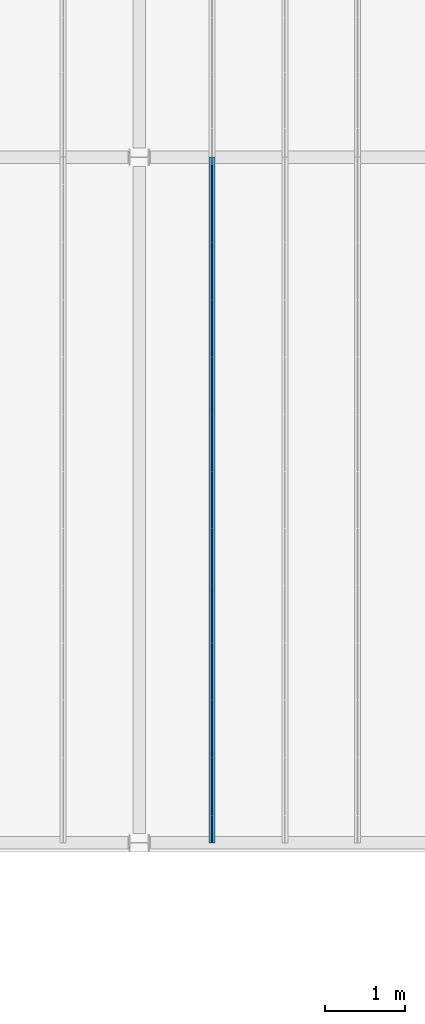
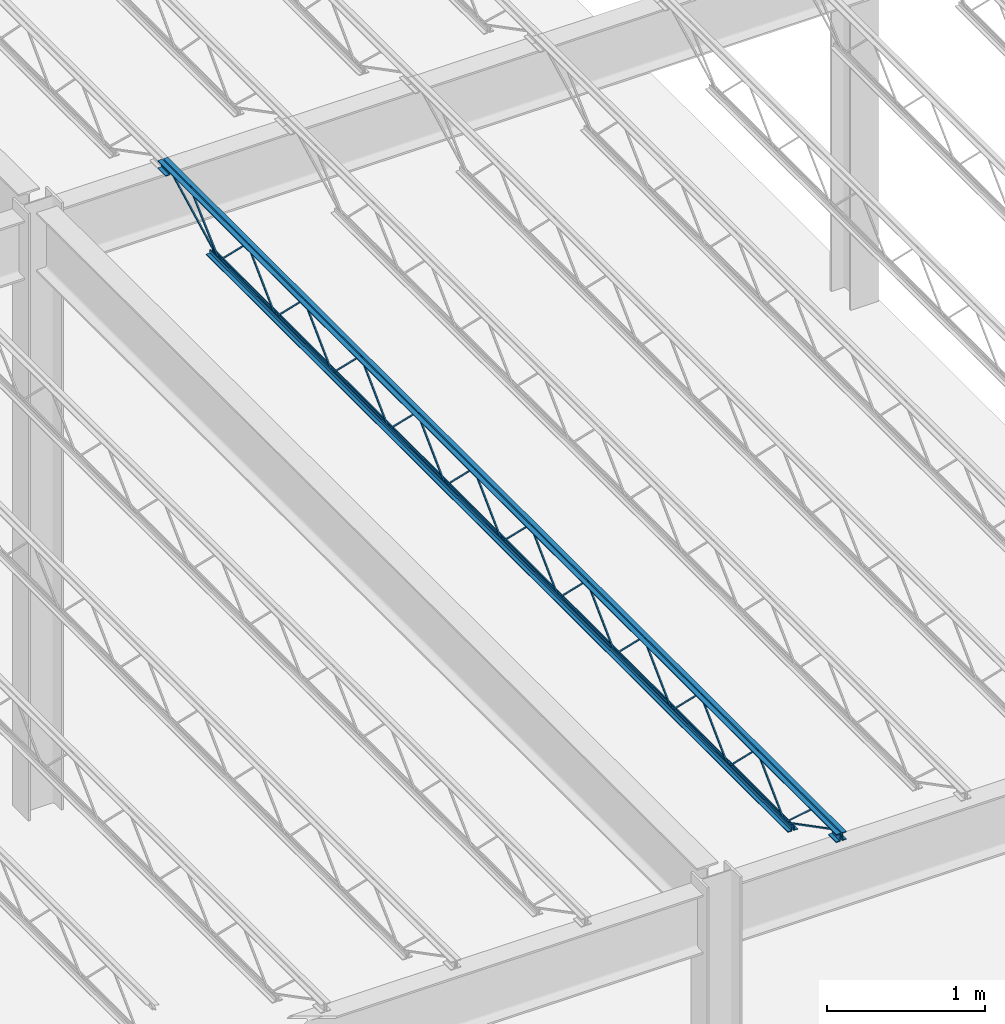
# One storey, part 64 of 119: 1 beam.
"""IFC2X3 building model written with IfcOpenShell, lengths in metres."""

from ifc_helpers import new_model, entity, si_unit, converted_unit, frame, origin, place, context, project, spatial, face_set, surface_model, element, save


model = new_model("IFC2X3")

# Units and contexts
model_context = context("Model", 3, precision=1e-09, world=origin())
plan_context = context("Plan", 3, precision=1e-09, world=origin())
ifc_project = project(units=[si_unit("LENGTHUNIT", "METRE"), si_unit("AREAUNIT", "SQUARE_METRE"), si_unit("VOLUMEUNIT", "CUBIC_METRE"), converted_unit("PLANEANGLEUNIT", "DEGREE", entity("IfcRatioMeasure", 0.01745329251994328), si_unit("PLANEANGLEUNIT", "RADIAN"), dimensions=[0, 0, 0, 0, 0, 0, 0]), si_unit("TIMEUNIT", "SECOND")], contexts=[model_context, plan_context])

# Site, building, storey
site_placement = place(None, origin())
site = spatial("IfcSite", under=ifc_project, at=site_placement, Name="Default", CompositionType="ELEMENT")
building_placement = place(site_placement, origin())
building = spatial("IfcBuilding", under=site, at=building_placement, CompositionType="ELEMENT")
storey_placement = place(building_placement, frame((0.0, 0.0, 4.570000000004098)))
storey = spatial("IfcBuildingStorey", under=building, at=storey_placement, Name="Second Floor", CompositionType="ELEMENT", Elevation=4.570000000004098)

# Beam
beam_placement = place(storey_placement, frame((-6.406750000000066, 10.03999999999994, 4.323999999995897)))
element("IfcBeam", 1, at=beam_placement, inside=storey, Name="M_K-Series Bar Joist-Rod Web:14K1:14K1", ObjectType="M_K-Series Bar Joist-Rod Web:14K1", context=model_context, shape_type="SurfaceModel", body=[
    surface_model("IfcFaceBasedSurfaceModel", [(0.04150000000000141, 6.428799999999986, 0.01110000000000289), (0.03200000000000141, 6.428799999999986, 0.01110000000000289), (0.03200000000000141, 6.428799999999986, 0.001600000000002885), (0.04150000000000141, 6.428799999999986, 0.001600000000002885), (0.0320000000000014, 6.430038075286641, 0.01110000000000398), (0.04150000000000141, 6.430038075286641, 0.01110000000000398), (0.0320000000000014, 6.433911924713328, 0.001600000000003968), (0.0320000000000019, 6.784861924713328, 0.3449000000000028), (0.0320000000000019, 6.78733807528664, 0.3449000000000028), (0.03200000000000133, 7.138288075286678, 0.001600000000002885), (0.03200000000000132, 7.143399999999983, 0.001600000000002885), (0.03200000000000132, 7.143399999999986, 0.01110000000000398), (0.03200000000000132, 7.142161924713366, 0.01110000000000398), (0.0320000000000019, 6.79121192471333, 0.3544000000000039), (0.03200000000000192, 6.780988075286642, 0.3544000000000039), (0.0415000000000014, 6.433911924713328, 0.001600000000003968), (0.04150000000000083, 6.784861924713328, 0.3449000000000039), (0.04150000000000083, 6.787338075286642, 0.3449000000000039), (0.04150000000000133, 7.138288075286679, 0.001600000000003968), (0.04150000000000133, 7.143399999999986, 0.001600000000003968), (0.04150000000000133, 7.143399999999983, 0.01110000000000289), (0.04150000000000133, 7.142161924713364, 0.01110000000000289), (0.0415000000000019, 6.791211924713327, 0.3544000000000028), (0.04150000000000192, 6.780988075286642, 0.3544000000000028), (0.04150000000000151, 5.714199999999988, 0.01110000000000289), (0.0320000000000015, 5.714199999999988, 0.01110000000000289), (0.0320000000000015, 5.714199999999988, 0.001600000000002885), (0.04150000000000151, 5.714199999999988, 0.001600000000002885), (0.0320000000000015, 5.715438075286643, 0.01110000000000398), (0.04150000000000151, 5.715438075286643, 0.01110000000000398), (0.03200000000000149, 5.71931192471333, 0.001600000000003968), (0.032000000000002, 6.07026192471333, 0.3449000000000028), (0.03200000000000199, 6.072738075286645, 0.3449000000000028), (0.03200000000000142, 6.423688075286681, 0.001600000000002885), (0.03200000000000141, 6.428799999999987, 0.001600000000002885), (0.03200000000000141, 6.428799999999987, 0.01110000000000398), (0.03200000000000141, 6.427561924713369, 0.01110000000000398), (0.03200000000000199, 6.076611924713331, 0.3544000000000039), (0.032000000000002, 6.066388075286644, 0.3544000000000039), (0.04150000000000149, 5.71931192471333, 0.001600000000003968), (0.04150000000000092, 6.07026192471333, 0.3449000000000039), (0.04150000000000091, 6.072738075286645, 0.3449000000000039), (0.04150000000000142, 6.423688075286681, 0.001600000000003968), (0.04150000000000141, 6.428799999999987, 0.001600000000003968), (0.04150000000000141, 6.428799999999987, 0.01110000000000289), (0.04150000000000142, 6.427561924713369, 0.01110000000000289), (0.04150000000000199, 6.076611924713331, 0.3544000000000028), (0.04150000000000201, 6.066388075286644, 0.3544000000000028), (0.0415000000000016, 4.999599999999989, 0.01110000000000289), (0.03200000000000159, 4.999599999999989, 0.01110000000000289), (0.03200000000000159, 4.999599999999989, 0.001600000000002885), (0.0415000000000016, 4.999599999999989, 0.001600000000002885), (0.03200000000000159, 5.000838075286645, 0.01110000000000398), (0.0415000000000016, 5.000838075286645, 0.01110000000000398), (0.03200000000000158, 5.004711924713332, 0.001600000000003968), (0.03200000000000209, 5.355661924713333, 0.3449000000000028), (0.03200000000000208, 5.358138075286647, 0.3449000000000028), (0.03200000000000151, 5.709088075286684, 0.001600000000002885), (0.0320000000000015, 5.714199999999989, 0.001600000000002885), (0.0320000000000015, 5.714199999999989, 0.01110000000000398), (0.0320000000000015, 5.712961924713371, 0.01110000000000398), (0.03200000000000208, 5.362011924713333, 0.3544000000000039), (0.0320000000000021, 5.351788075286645, 0.3544000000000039), (0.04150000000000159, 5.004711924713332, 0.001600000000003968), (0.04150000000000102, 5.355661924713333, 0.3449000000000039), (0.04150000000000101, 5.358138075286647, 0.3449000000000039), (0.04150000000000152, 5.709088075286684, 0.001600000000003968), (0.04150000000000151, 5.714199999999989, 0.001600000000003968), (0.04150000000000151, 5.714199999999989, 0.01110000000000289), (0.04150000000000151, 5.712961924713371, 0.01110000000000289), (0.04150000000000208, 5.362011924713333, 0.3544000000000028), (0.0415000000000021, 5.351788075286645, 0.3544000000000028), (0.04150000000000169, 4.284999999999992, 0.01110000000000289), (0.03200000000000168, 4.284999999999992, 0.01110000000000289), (0.03200000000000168, 4.284999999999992, 0.001600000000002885), (0.04150000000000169, 4.284999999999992, 0.001600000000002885), (0.03200000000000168, 4.286238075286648, 0.01110000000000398), (0.04150000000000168, 4.286238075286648, 0.01110000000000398), (0.03200000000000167, 4.290111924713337, 0.001600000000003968), (0.03200000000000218, 4.641061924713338, 0.3449000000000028), (0.03200000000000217, 4.643538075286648, 0.3449000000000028), (0.0320000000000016, 4.994488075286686, 0.001600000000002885), (0.03200000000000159, 4.999599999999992, 0.001600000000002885), (0.03200000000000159, 4.999599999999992, 0.01110000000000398), (0.03200000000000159, 4.998361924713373, 0.01110000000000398), (0.03200000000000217, 4.647411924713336, 0.3544000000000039), (0.03200000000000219, 4.637188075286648, 0.3544000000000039), (0.04150000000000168, 4.290111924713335, 0.001600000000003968), (0.0415000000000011, 4.641061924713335, 0.3449000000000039), (0.0415000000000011, 4.643538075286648, 0.3449000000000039), (0.04150000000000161, 4.994488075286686, 0.001600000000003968), (0.0415000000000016, 4.999599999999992, 0.001600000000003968), (0.0415000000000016, 4.999599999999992, 0.01110000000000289), (0.0415000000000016, 4.998361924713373, 0.01110000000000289), (0.04150000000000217, 4.647411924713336, 0.3544000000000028), (0.04150000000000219, 4.637188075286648, 0.3544000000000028), (0.04150000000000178, 3.570399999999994, 0.01110000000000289), (0.03200000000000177, 3.570399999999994, 0.01110000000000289), (0.03200000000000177, 3.570399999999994, 0.001600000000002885), (0.04150000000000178, 3.570399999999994, 0.001600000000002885), (0.03200000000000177, 3.57163807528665, 0.01110000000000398), (0.04150000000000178, 3.57163807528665, 0.01110000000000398), (0.03200000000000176, 3.575511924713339, 0.001600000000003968), (0.03200000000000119, 3.926461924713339, 0.3449000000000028), (0.03200000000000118, 3.928938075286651, 0.3449000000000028), (0.03200000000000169, 4.279888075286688, 0.001600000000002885), (0.03200000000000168, 4.284999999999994, 0.001600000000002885), (0.03200000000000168, 4.284999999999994, 0.01110000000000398), (0.03200000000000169, 4.283761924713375, 0.01110000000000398), (0.03200000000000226, 3.932811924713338, 0.3544000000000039), (0.03200000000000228, 3.92258807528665, 0.3544000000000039), (0.04150000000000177, 3.575511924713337, 0.001600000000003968), (0.04150000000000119, 3.926461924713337, 0.3449000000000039), (0.04150000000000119, 3.928938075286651, 0.3449000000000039), (0.0415000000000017, 4.279888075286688, 0.001600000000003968), (0.04150000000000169, 4.284999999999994, 0.001600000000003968), (0.04150000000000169, 4.284999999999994, 0.01110000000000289), (0.04150000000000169, 4.283761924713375, 0.01110000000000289), (0.04150000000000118, 3.93281192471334, 0.3544000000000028), (0.0415000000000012, 3.922588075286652, 0.3544000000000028), (0.04150000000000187, 2.855799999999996, 0.01110000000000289), (0.03200000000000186, 2.855799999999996, 0.01110000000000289), (0.03200000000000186, 2.855799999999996, 0.001600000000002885), (0.04150000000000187, 2.855799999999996, 0.001600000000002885), (0.03200000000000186, 2.857038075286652, 0.01110000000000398), (0.04150000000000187, 2.857038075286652, 0.01110000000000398), (0.03200000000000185, 2.860911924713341, 0.001600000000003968), (0.03200000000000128, 3.211861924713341, 0.3449000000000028), (0.03200000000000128, 3.214338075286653, 0.3449000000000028), (0.03200000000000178, 3.56528807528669, 0.001600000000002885), (0.03200000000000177, 3.570399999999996, 0.001600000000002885), (0.03200000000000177, 3.570399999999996, 0.01110000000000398), (0.03200000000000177, 3.569161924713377, 0.01110000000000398), (0.03200000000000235, 3.21821192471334, 0.3544000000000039), (0.03200000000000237, 3.207988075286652, 0.3544000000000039), (0.04150000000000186, 2.860911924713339, 0.001600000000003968), (0.04150000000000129, 3.21186192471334, 0.3449000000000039), (0.04150000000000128, 3.214338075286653, 0.3449000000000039), (0.04150000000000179, 3.56528807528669, 0.001600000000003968), (0.04150000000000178, 3.570399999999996, 0.001600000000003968), (0.04150000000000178, 3.570399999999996, 0.01110000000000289), (0.04150000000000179, 3.569161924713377, 0.01110000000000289), (0.04150000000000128, 3.218211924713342, 0.3544000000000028), (0.04150000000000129, 3.207988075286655, 0.3544000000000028), (0.04150000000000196, 2.1412, 0.01110000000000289), (0.03200000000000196, 2.1412, 0.01110000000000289), (0.03200000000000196, 2.1412, 0.001600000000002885), (0.04150000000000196, 2.1412, 0.001600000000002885), (0.03200000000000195, 2.142438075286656, 0.01110000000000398), (0.04150000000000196, 2.142438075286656, 0.01110000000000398), (0.03200000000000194, 2.146311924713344, 0.001600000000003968), (0.03200000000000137, 2.497261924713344, 0.3449000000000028), (0.03200000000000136, 2.499738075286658, 0.3449000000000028), (0.03200000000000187, 2.850688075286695, 0.001600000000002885), (0.03200000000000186, 2.8558, 0.001600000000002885), (0.03200000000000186, 2.8558, 0.01110000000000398), (0.03200000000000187, 2.854561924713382, 0.01110000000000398), (0.03200000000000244, 2.503611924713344, 0.3544000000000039), (0.03200000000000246, 2.493388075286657, 0.3544000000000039), (0.04150000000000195, 2.146311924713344, 0.001600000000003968), (0.04150000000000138, 2.497261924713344, 0.3449000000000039), (0.04150000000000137, 2.499738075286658, 0.3449000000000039), (0.04150000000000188, 2.850688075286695, 0.001600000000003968), (0.04150000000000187, 2.8558, 0.001600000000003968), (0.04150000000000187, 2.8558, 0.01110000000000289), (0.04150000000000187, 2.854561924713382, 0.01110000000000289), (0.04150000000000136, 2.503611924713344, 0.3544000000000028), (0.04150000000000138, 2.493388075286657, 0.3544000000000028), (0.04150000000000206, 1.426600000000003, 0.01110000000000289), (0.03200000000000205, 1.426600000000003, 0.01110000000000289), (0.03200000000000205, 1.426600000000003, 0.001600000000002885), (0.04150000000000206, 1.426600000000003, 0.001600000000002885), (0.03200000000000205, 1.427838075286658, 0.01110000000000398), (0.04150000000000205, 1.427838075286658, 0.01110000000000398), (0.03200000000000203, 1.431711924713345, 0.001600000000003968), (0.03200000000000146, 1.782661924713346, 0.3449000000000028), (0.03200000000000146, 1.78513807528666, 0.3449000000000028), (0.03200000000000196, 2.136088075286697, 0.001600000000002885), (0.03200000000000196, 2.141200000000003, 0.001600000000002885), (0.03200000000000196, 2.141200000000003, 0.01110000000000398), (0.03200000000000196, 2.139961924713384, 0.01110000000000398), (0.03200000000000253, 1.789011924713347, 0.3544000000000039), (0.03200000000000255, 1.778788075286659, 0.3544000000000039), (0.04150000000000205, 1.431711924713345, 0.001600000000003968), (0.04150000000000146, 1.782661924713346, 0.3449000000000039), (0.04150000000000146, 1.78513807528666, 0.3449000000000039), (0.04150000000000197, 2.136088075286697, 0.001600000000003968), (0.04150000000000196, 2.141200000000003, 0.001600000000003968), (0.04150000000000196, 2.141200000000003, 0.01110000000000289), (0.04150000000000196, 2.139961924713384, 0.01110000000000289), (0.04150000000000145, 1.789011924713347, 0.3544000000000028), (0.04150000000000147, 1.778788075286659, 0.3544000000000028), (0.04150000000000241, 7.143399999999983, 0.01109999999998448), (0.0320000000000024, 7.143399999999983, 0.01109999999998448), (0.0320000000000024, 7.143399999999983, 0.001599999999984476), (0.04150000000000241, 7.143399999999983, 0.001599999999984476), (0.0320000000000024, 7.144638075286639, 0.01109999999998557), (0.0415000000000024, 7.144638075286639, 0.01109999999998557), (0.03200000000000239, 7.148511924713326, 0.001599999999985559), (0.0320000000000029, 7.499461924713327, 0.3448999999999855), (0.03200000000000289, 7.501938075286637, 0.3448999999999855), (0.03200000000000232, 7.852888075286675, 0.001599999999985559), (0.03200000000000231, 7.857999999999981, 0.001599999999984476), (0.03200000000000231, 7.857999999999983, 0.01109999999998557), (0.03200000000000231, 7.856761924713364, 0.01109999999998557), (0.03200000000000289, 7.505811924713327, 0.3543999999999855), (0.0320000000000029, 7.495588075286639, 0.3543999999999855), (0.0415000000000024, 7.148511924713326, 0.001599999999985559), (0.04150000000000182, 7.499461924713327, 0.3448999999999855), (0.04150000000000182, 7.50193807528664, 0.3448999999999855), (0.04150000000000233, 7.852888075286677, 0.001599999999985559), (0.04150000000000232, 7.857999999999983, 0.001599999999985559), (0.04150000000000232, 7.857999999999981, 0.01109999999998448), (0.04150000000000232, 7.856761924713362, 0.01109999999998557), (0.04150000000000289, 7.505811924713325, 0.3543999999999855), (0.04150000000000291, 7.495588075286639, 0.3543999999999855), (0.04150000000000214, 0.712000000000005, 0.01110000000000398), (0.03200000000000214, 0.712000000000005, 0.01110000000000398), (0.03200000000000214, 0.712000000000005, 0.001600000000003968), (0.04150000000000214, 0.712000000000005, 0.001600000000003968), (0.03200000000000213, 0.7132380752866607, 0.01110000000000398), (0.04150000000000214, 0.7132380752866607, 0.01110000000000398), (0.03200000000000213, 0.7171119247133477, 0.001600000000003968), (0.03200000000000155, 1.068061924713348, 0.3449000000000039), (0.03200000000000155, 1.070538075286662, 0.3449000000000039), (0.03200000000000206, 1.421488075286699, 0.001600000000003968), (0.03200000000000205, 1.426600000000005, 0.001600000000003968), (0.03200000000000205, 1.426600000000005, 0.01110000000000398), (0.03200000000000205, 1.425361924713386, 0.01110000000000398), (0.03200000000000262, 1.074411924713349, 0.3544000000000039), (0.03200000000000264, 1.064188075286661, 0.3544000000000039), (0.04150000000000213, 0.7171119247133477, 0.001600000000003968), (0.04150000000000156, 1.068061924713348, 0.3449000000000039), (0.04150000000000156, 1.070538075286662, 0.3449000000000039), (0.04150000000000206, 1.421488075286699, 0.001600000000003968), (0.04150000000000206, 1.426600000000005, 0.001600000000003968), (0.04150000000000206, 1.426600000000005, 0.01110000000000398), (0.04150000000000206, 1.425361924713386, 0.01110000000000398), (0.04150000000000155, 1.074411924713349, 0.3544000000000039), (0.04150000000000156, 1.064188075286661, 0.3544000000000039), (0.03200000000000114, 8.57, 0.3559999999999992), (0.0, 8.57, 0.3559999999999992), (0.0, 8.57, 0.3494999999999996), (0.02550000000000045, 8.57, 0.3494999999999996), (0.02550000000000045, 8.57, 0.3239999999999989), (0.03200000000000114, 8.57, 0.3239999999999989), (0.04150000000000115, 8.57, 0.3559999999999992), (0.04150000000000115, 8.57, 0.3239999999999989), (0.04800000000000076, 8.57, 0.3239999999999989), (0.04800000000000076, 8.57, 0.3494999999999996), (0.07350000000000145, 8.57, 0.3494999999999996), (0.07350000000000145, 8.57, 0.3559999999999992), (0.03200000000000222, 0.0, 0.3559999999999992), (0.0, 0.0, 0.3559999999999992), (0.0, 0.0, 0.3494999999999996), (0.02550000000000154, 0.0, 0.3494999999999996), (0.02550000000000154, 0.0, 0.3239999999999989), (0.03200000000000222, 0.0, 0.3239999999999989), (0.04150000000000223, 0.0, 0.3559999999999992), (0.04150000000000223, 0.0, 0.3239999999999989), (0.04800000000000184, 0.0, 0.3239999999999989), (0.04800000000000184, 0.0, 0.3494999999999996), (0.07350000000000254, 0.0, 0.3494999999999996), (0.07350000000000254, 0.0, 0.3559999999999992), (0.04150000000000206, 0.09999999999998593, 0.2924999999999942), (0.07350000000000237, 0.09999999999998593, 0.2924999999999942), (0.07350000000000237, 0.09999999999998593, 0.2989999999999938), (0.04800000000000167, 0.09999999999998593, 0.2989999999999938), (0.04800000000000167, 0.09999999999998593, 0.3239999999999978), (0.04150000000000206, 0.09999999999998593, 0.3239999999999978), (0.0, 0.09999999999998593, 0.2924999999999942), (0.03200000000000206, 0.09999999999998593, 0.2924999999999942), (0.03200000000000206, 0.09999999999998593, 0.3239999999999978), (0.02550000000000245, 0.09999999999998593, 0.3239999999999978), (0.02550000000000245, 0.09999999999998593, 0.2989999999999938), (0.0, 0.09999999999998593, 0.2989999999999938), (0.04150000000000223, 0.0, 0.2924999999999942), (0.07350000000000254, 0.0, 0.2924999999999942), (0.07350000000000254, 0.0, 0.2989999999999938), (0.04800000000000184, 0.0, 0.2989999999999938), (0.04800000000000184, 0.0, 0.3239999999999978), (0.04150000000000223, 0.0, 0.3239999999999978), (0.0, 0.0, 0.2924999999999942), (0.03200000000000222, 0.0, 0.2924999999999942), (0.03200000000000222, 0.0, 0.3239999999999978), (0.02550000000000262, 0.0, 0.3239999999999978), (0.02550000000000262, 0.0, 0.2989999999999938), (0.0, 0.0, 0.2989999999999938), (0.03200000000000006, 8.57, 0.2924999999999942), (0.03200000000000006, 8.57, 0.3239999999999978), (0.02550000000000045, 8.57, 0.3239999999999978), (0.02550000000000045, 8.57, 0.2989999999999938), (0.0, 8.57, 0.2989999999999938), (0.0, 8.57, 0.2924999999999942), (0.04150000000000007, 8.57, 0.2924999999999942), (0.07350000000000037, 8.57, 0.2924999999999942), (0.07350000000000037, 8.57, 0.2989999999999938), (0.04800000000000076, 8.57, 0.2989999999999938), (0.04800000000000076, 8.57, 0.3239999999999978), (0.04150000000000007, 8.57, 0.3239999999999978), (0.03200000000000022, 8.47, 0.2924999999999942), (0.03200000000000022, 8.47, 0.3239999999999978), (0.02550000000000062, 8.47, 0.3239999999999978), (0.02550000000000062, 8.47, 0.2989999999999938), (0.0, 8.47, 0.2989999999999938), (0.0, 8.47, 0.2924999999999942), (0.04150000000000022, 8.47, 0.2924999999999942), (0.07350000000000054, 8.47, 0.2924999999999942), (0.07350000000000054, 8.47, 0.2989999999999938), (0.04800000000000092, 8.47, 0.2989999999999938), (0.04800000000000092, 8.47, 0.3239999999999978), (0.04150000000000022, 8.47, 0.3239999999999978), (0.03200000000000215, 7.958000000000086, 0.0), (0.03200000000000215, 7.958000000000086, 0.03199999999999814), (0.02550000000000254, 7.958000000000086, 0.03199999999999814), (0.02550000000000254, 7.958000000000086, 0.006499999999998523), (0.0, 7.958000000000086, 0.006499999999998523), (0.0, 7.958000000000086, 0.0), (0.04150000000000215, 7.958000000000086, 0.0), (0.07350000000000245, 7.958000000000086, 0.0), (0.07350000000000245, 7.958000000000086, 0.006499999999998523), (0.04800000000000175, 7.958000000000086, 0.006499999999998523), (0.04800000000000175, 7.958000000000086, 0.03199999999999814), (0.04150000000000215, 7.958000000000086, 0.03199999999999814), (0.03200000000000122, 0.6120000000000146, 0.0), (0.03200000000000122, 0.6120000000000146, 0.03199999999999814), (0.02550000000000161, 0.6120000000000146, 0.03199999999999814), (0.02550000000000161, 0.6120000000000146, 0.006499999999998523), (0.0, 0.6120000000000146, 0.006499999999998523), (0.0, 0.6120000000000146, 0.0), (0.04150000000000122, 0.6120000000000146, 0.0), (0.07350000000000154, 0.6120000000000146, 0.0), (0.07350000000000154, 0.6120000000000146, 0.006499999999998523), (0.04800000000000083, 0.6120000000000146, 0.006499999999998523), (0.04800000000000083, 0.6120000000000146, 0.03199999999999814), (0.04150000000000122, 0.6120000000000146, 0.03199999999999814), (0.04150000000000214, 0.7141882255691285, 0.01056594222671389), (0.03200000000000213, 0.7141882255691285, 0.01056594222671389), (0.03200000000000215, 0.7098117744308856, 0.002134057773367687), (0.04150000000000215, 0.7098117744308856, 0.00213405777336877), (0.04150000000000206, 0.1011592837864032, 0.3287499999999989), (0.04150000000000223, 0.0, 0.3287499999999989), (0.04150000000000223, 0.0, 0.3192499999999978), (0.04150000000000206, 0.09884071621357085, 0.3192499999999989), (0.03200000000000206, 0.09884071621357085, 0.3192499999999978), (0.03200000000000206, 0.1011592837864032, 0.3287499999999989), (0.03200000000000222, 0.0, 0.3287499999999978), (0.03200000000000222, 0.0, 0.3192499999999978), (0.04150000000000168, 0.3347428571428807, 0.3417000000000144), (0.03200000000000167, 0.3347428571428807, 0.3417000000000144), (0.03200000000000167, 0.3347428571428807, 0.3322000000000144), (0.04150000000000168, 0.3347428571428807, 0.3322000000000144), (0.03200000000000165, 0.349275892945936, 0.3417000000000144), (0.04150000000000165, 0.349275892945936, 0.3417000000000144), (0.03200000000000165, 0.3456098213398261, 0.3322000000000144), (0.03200000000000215, 0.7088091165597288, 0.002831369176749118), (0.03200000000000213, 0.7151908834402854, 0.009868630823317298), (0.04150000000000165, 0.3456098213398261, 0.3322000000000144), (0.04150000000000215, 0.7088091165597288, 0.002831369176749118), (0.04150000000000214, 0.7151908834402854, 0.009868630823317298), (0.04150000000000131, 8.472188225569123, 0.3197840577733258), (0.04150000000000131, 8.467811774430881, 0.328215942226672), (0.03200000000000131, 8.467811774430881, 0.328215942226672), (0.0320000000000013, 8.472188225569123, 0.3197840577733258), (0.04150000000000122, 7.860188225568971, 0.002134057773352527), (0.04150000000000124, 7.855811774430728, 0.01056594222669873), (0.03200000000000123, 7.855811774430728, 0.01056594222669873), (0.03200000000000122, 7.860188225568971, 0.002134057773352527), (0.0415000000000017, 8.233036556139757, 0.3461600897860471), (0.04150000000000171, 8.22659201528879, 0.3531399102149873), (0.03200000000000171, 8.22659201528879, 0.3531399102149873), (0.03200000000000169, 8.233036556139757, 0.3461600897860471), (0.04150000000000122, 7.861222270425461, 0.00286008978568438), (0.04150000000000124, 7.854777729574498, 0.009839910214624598), (0.03200000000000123, 7.854777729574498, 0.009839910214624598), (0.03200000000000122, 7.861222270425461, 0.00286008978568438)], [face_set([[[0, 1, 2, 3]], [[1, 4, 5, 0]], [[2, 6, 7, 8, 9, 10, 11, 12, 13, 14, 4, 1]], [[3, 2, 6, 15]], [[0, 3, 15, 16, 17, 18, 19, 20, 21, 22, 23, 5]], [[4, 5, 23, 14]], [[15, 16, 7, 6]], [[14, 13, 22, 23]], [[16, 7, 8, 17]], [[13, 12, 21, 22]], [[17, 8, 9, 18]], [[20, 11, 10, 19]], [[12, 11, 20, 21]], [[18, 9, 10, 19]]]), face_set([[[24, 25, 26, 27]], [[25, 28, 29, 24]], [[26, 30, 31, 32, 33, 34, 35, 36, 37, 38, 28, 25]], [[27, 26, 30, 39]], [[24, 27, 39, 40, 41, 42, 43, 44, 45, 46, 47, 29]], [[28, 29, 47, 38]], [[39, 40, 31, 30]], [[38, 37, 46, 47]], [[40, 31, 32, 41]], [[37, 36, 45, 46]], [[41, 32, 33, 42]], [[44, 35, 34, 43]], [[36, 35, 44, 45]], [[42, 33, 34, 43]]]), face_set([[[48, 49, 50, 51]], [[49, 52, 53, 48]], [[50, 54, 55, 56, 57, 58, 59, 60, 61, 62, 52, 49]], [[51, 50, 54, 63]], [[48, 51, 63, 64, 65, 66, 67, 68, 69, 70, 71, 53]], [[52, 53, 71, 62]], [[63, 64, 55, 54]], [[62, 61, 70, 71]], [[64, 55, 56, 65]], [[61, 60, 69, 70]], [[65, 56, 57, 66]], [[68, 59, 58, 67]], [[60, 59, 68, 69]], [[66, 57, 58, 67]]]), face_set([[[72, 73, 74, 75]], [[73, 76, 77, 72]], [[74, 78, 79, 80, 81, 82, 83, 84, 85, 86, 76, 73]], [[75, 74, 78, 87]], [[72, 75, 87, 88, 89, 90, 91, 92, 93, 94, 95, 77]], [[76, 77, 95, 86]], [[87, 88, 79, 78]], [[86, 85, 94, 95]], [[88, 79, 80, 89]], [[85, 84, 93, 94]], [[89, 80, 81, 90]], [[92, 83, 82, 91]], [[84, 83, 92, 93]], [[90, 81, 82, 91]]]), face_set([[[96, 97, 98, 99]], [[97, 100, 101, 96]], [[98, 102, 103, 104, 105, 106, 107, 108, 109, 110, 100, 97]], [[99, 98, 102, 111]], [[96, 99, 111, 112, 113, 114, 115, 116, 117, 118, 119, 101]], [[100, 101, 119, 110]], [[111, 112, 103, 102]], [[110, 109, 118, 119]], [[112, 103, 104, 113]], [[109, 108, 117, 118]], [[113, 104, 105, 114]], [[116, 107, 106, 115]], [[108, 107, 116, 117]], [[114, 105, 106, 115]]]), face_set([[[120, 121, 122, 123]], [[121, 124, 125, 120]], [[122, 126, 127, 128, 129, 130, 131, 132, 133, 134, 124, 121]], [[123, 122, 126, 135]], [[120, 123, 135, 136, 137, 138, 139, 140, 141, 142, 143, 125]], [[124, 125, 143, 134]], [[135, 136, 127, 126]], [[134, 133, 142, 143]], [[136, 127, 128, 137]], [[133, 132, 141, 142]], [[137, 128, 129, 138]], [[140, 131, 130, 139]], [[132, 131, 140, 141]], [[138, 129, 130, 139]]]), face_set([[[144, 145, 146, 147]], [[145, 148, 149, 144]], [[146, 150, 151, 152, 153, 154, 155, 156, 157, 158, 148, 145]], [[147, 146, 150, 159]], [[144, 147, 159, 160, 161, 162, 163, 164, 165, 166, 167, 149]], [[148, 149, 167, 158]], [[159, 160, 151, 150]], [[158, 157, 166, 167]], [[160, 151, 152, 161]], [[157, 156, 165, 166]], [[161, 152, 153, 162]], [[164, 155, 154, 163]], [[156, 155, 164, 165]], [[162, 153, 154, 163]]]), face_set([[[168, 169, 170, 171]], [[169, 172, 173, 168]], [[170, 174, 175, 176, 177, 178, 179, 180, 181, 182, 172, 169]], [[171, 170, 174, 183]], [[168, 171, 183, 184, 185, 186, 187, 188, 189, 190, 191, 173]], [[172, 173, 191, 182]], [[183, 184, 175, 174]], [[182, 181, 190, 191]], [[184, 175, 176, 185]], [[181, 180, 189, 190]], [[185, 176, 177, 186]], [[188, 179, 178, 187]], [[180, 179, 188, 189]], [[186, 177, 178, 187]]]), face_set([[[192, 193, 194, 195]], [[193, 196, 197, 192]], [[194, 198, 199, 200, 201, 202, 203, 204, 205, 206, 196, 193]], [[195, 194, 198, 207]], [[192, 195, 207, 208, 209, 210, 211, 212, 213, 214, 215, 197]], [[196, 197, 215, 206]], [[207, 208, 199, 198]], [[206, 205, 214, 215]], [[208, 199, 200, 209]], [[205, 204, 213, 214]], [[209, 200, 201, 210]], [[212, 203, 202, 211]], [[204, 203, 212, 213]], [[210, 201, 202, 211]]]), face_set([[[216, 217, 218, 219]], [[217, 220, 221, 216]], [[218, 222, 223, 224, 225, 226, 227, 228, 229, 230, 220, 217]], [[219, 218, 222, 231]], [[216, 219, 231, 232, 233, 234, 235, 236, 237, 238, 239, 221]], [[220, 221, 239, 230]], [[231, 232, 223, 222]], [[230, 229, 238, 239]], [[232, 223, 224, 233]], [[229, 228, 237, 238]], [[233, 224, 225, 234]], [[236, 227, 226, 235]], [[228, 227, 236, 237]], [[234, 225, 226, 235]]]), face_set([[[240, 241, 242, 243, 244, 245]], [[246, 247, 248, 249, 250, 251]], [[252, 253, 254, 255, 256, 257]], [[258, 259, 260, 261, 262, 263]], [[245, 240, 252, 257]], [[244, 245, 257, 256]], [[243, 255, 256, 244]], [[242, 243, 255, 254]], [[241, 253, 254, 242]], [[240, 252, 253, 241]], [[251, 263, 258, 246]], [[250, 251, 263, 262]], [[249, 250, 262, 261]], [[248, 249, 261, 260]], [[247, 248, 260, 259]], [[246, 258, 259, 247]]]), face_set([[[264, 265, 266, 267, 268, 269]], [[270, 271, 272, 273, 274, 275]], [[276, 277, 278, 279, 280, 281]], [[282, 283, 284, 285, 286, 287]], [[269, 281, 276, 264]], [[268, 280, 281, 269]], [[267, 268, 280, 279]], [[266, 278, 279, 267]], [[265, 266, 278, 277]], [[264, 265, 277, 276]], [[275, 287, 282, 270]], [[274, 286, 287, 275]], [[273, 285, 286, 274]], [[272, 284, 285, 273]], [[271, 272, 284, 283]], [[270, 271, 283, 282]]]), face_set([[[288, 289, 290, 291, 292, 293]], [[294, 295, 296, 297, 298, 299]], [[300, 301, 302, 303, 304, 305]], [[306, 307, 308, 309, 310, 311]], [[293, 288, 300, 305]], [[292, 304, 305, 293]], [[291, 303, 304, 292]], [[290, 302, 303, 291]], [[289, 301, 302, 290]], [[288, 289, 301, 300]], [[299, 311, 306, 294]], [[298, 310, 311, 299]], [[297, 298, 310, 309]], [[296, 308, 309, 297]], [[295, 296, 308, 307]], [[294, 295, 307, 306]]]), face_set([[[312, 313, 314, 315, 316, 317]], [[318, 319, 320, 321, 322, 323]], [[324, 325, 326, 327, 328, 329]], [[330, 331, 332, 333, 334, 335]], [[317, 312, 324, 329]], [[316, 328, 329, 317]], [[315, 327, 328, 316]], [[314, 326, 327, 315]], [[313, 325, 326, 314]], [[312, 313, 325, 324]], [[323, 335, 330, 318]], [[322, 334, 335, 323]], [[321, 322, 334, 333]], [[320, 332, 333, 321]], [[319, 320, 332, 331]], [[318, 319, 331, 330]]]), face_set([[[336, 337, 338, 339]], [[339, 336, 340, 341, 342, 343]], [[338, 339, 343, 344]], [[337, 345, 346, 347, 344, 338]], [[336, 340, 345, 337]], [[341, 346, 347, 342]], [[344, 343, 342, 347]], [[340, 341, 346, 345]]]), face_set([[[348, 349, 350, 351]], [[349, 352, 353, 348]], [[350, 354, 355, 356, 352, 349]], [[351, 350, 354, 357]], [[348, 351, 357, 358, 359, 353]], [[359, 356, 355, 358]], [[352, 356, 359, 353]], [[357, 354, 355, 358]]]), face_set([[[360, 361, 362, 363]], [[364, 365, 366, 367]], [[363, 360, 364, 367]], [[362, 366, 367, 363]], [[361, 365, 366, 362]], [[360, 361, 365, 364]]]), face_set([[[368, 369, 370, 371]], [[372, 373, 374, 375]], [[371, 375, 372, 368]], [[370, 374, 375, 371]], [[369, 370, 374, 373]], [[368, 369, 373, 372]]])]),
])

save(model, "model.ifc")
